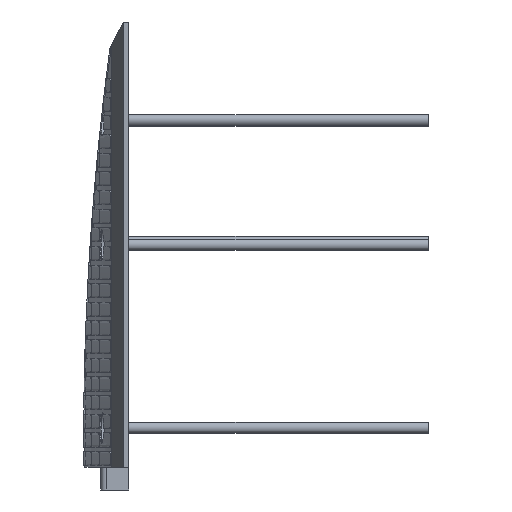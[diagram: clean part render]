
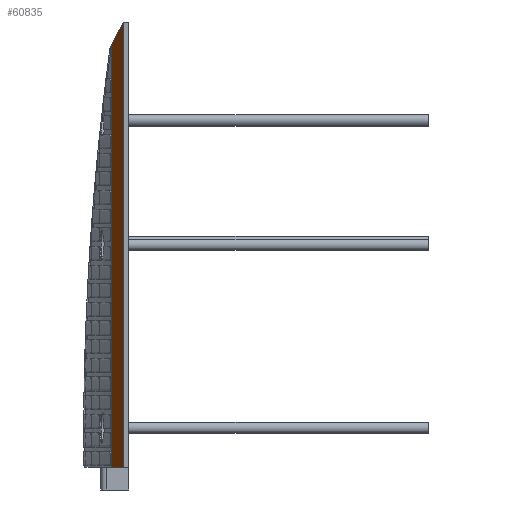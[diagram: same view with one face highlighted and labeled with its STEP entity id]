
A CAD part, left-side view. The second image highlights one B-rep face of the part: STEP entity #60835.
In plain terms, the highlighted planar face has unit normal (-0.454, 0.891, 0).
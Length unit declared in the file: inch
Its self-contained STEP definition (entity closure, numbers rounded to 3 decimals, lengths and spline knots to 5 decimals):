
#528 = CARTESIAN_POINT ( 'NONE',  ( -17.7, 0.25, 19.7 ) ) ;
#1734 = CARTESIAN_POINT ( 'NONE',  ( -17.7, 0.25, 19.7 ) ) ;
#4870 = LINE ( 'NONE', #72508, #55718 ) ;
#5662 = AXIS2_PLACEMENT_3D ( 'NONE', #528, #24876, #5912 ) ;
#5912 = DIRECTION ( 'NONE',  ( 0.891, 0.454, 0. ) ) ;
#7590 = ORIENTED_EDGE ( 'NONE', *, *, #35385, .T. ) ;
#8160 = DIRECTION ( 'NONE',  ( 0.665, 0.339, -0.665 ) ) ;
#9300 = LINE ( 'NONE', #76521, #50566 ) ;
#11809 = PLANE ( 'NONE',  #5662 ) ;
#14986 = CARTESIAN_POINT ( 'NONE',  ( -16.7, 0.75953, 0. ) ) ;
#15476 = VECTOR ( 'NONE', #8160, 39.37008 ) ;
#15634 = LINE ( 'NONE', #69078, #62699 ) ;
#19552 = VERTEX_POINT ( 'NONE', #41714 ) ;
#21213 = LINE ( 'NONE', #1734, #15476 ) ;
#24876 = DIRECTION ( 'NONE',  ( 0.454, -0.891, 0. ) ) ;
#25188 = CARTESIAN_POINT ( 'NONE',  ( -17.7, 0.25, 0. ) ) ;
#27100 = EDGE_CURVE ( 'NONE', #19552, #60637, #9300, .T. ) ;
#33520 = VERTEX_POINT ( 'NONE', #14986 ) ;
#33531 = ORIENTED_EDGE ( 'NONE', *, *, #60120, .T. ) ;
#34185 = VERTEX_POINT ( 'NONE', #68564 ) ;
#35385 = EDGE_CURVE ( 'NONE', #19552, #34185, #21213, .T. ) ;
#38460 = ORIENTED_EDGE ( 'NONE', *, *, #49213, .T. ) ;
#41714 = CARTESIAN_POINT ( 'NONE',  ( -17.7, 0.25, 19.7 ) ) ;
#49213 = EDGE_CURVE ( 'NONE', #33520, #60637, #4870, .T. ) ;
#50566 = VECTOR ( 'NONE', #70886, 39.37008 ) ;
#55718 = VECTOR ( 'NONE', #60168, 39.37008 ) ;
#55840 = FACE_OUTER_BOUND ( 'NONE', #60125, .T. ) ;
#60120 = EDGE_CURVE ( 'NONE', #34185, #33520, #15634, .T. ) ;
#60125 = EDGE_LOOP ( 'NONE', ( #66458, #7590, #33531, #38460 ) ) ;
#60168 = DIRECTION ( 'NONE',  ( -0.891, -0.454, 0. ) ) ;
#60637 = VERTEX_POINT ( 'NONE', #25188 ) ;
#60835 = ADVANCED_FACE ( 'NONE', ( #55840 ), #11809, .F. ) ;
#62699 = VECTOR ( 'NONE', #69324, 39.37008 ) ;
#66458 = ORIENTED_EDGE ( 'NONE', *, *, #27100, .F. ) ;
#68564 = CARTESIAN_POINT ( 'NONE',  ( -16.7, 0.75953, 18.7 ) ) ;
#69078 = CARTESIAN_POINT ( 'NONE',  ( -16.7, 0.75953, 19.7 ) ) ;
#69324 = DIRECTION ( 'NONE',  ( 0., 0., -1. ) ) ;
#70886 = DIRECTION ( 'NONE',  ( 0., 0., -1. ) ) ;
#72508 = CARTESIAN_POINT ( 'NONE',  ( -17.7, 0.25, 0. ) ) ;
#76521 = CARTESIAN_POINT ( 'NONE',  ( -17.7, 0.25, 19.7 ) ) ;
